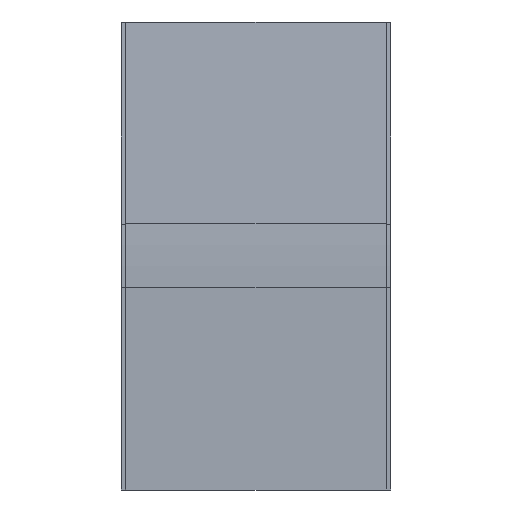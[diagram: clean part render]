
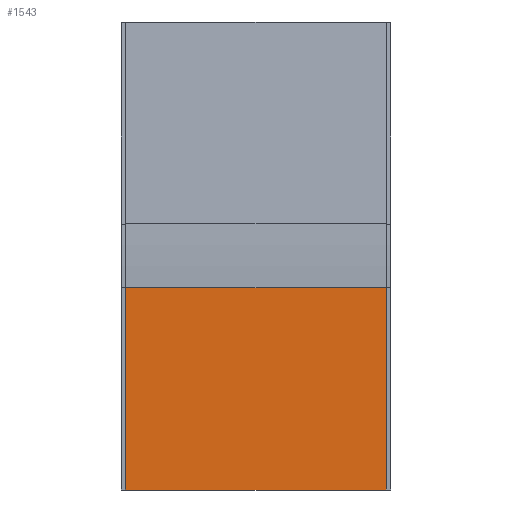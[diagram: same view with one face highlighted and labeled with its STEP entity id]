
A CAD part, front view. The second image highlights one B-rep face of the part: STEP entity #1543.
In plain terms, the highlighted planar face has unit normal (0, -1, 0).
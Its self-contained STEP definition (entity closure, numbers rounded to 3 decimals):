
#58 = EDGE_CURVE ( 'NONE', #579, #2000, #2202, .T. ) ;
#143 = LINE ( 'NONE', #468, #1930 ) ;
#182 = EDGE_LOOP ( 'NONE', ( #1221, #461, #3072, #841 ) ) ;
#251 = VECTOR ( 'NONE', #280, 1000. ) ;
#280 = DIRECTION ( 'NONE',  ( -1., 0., 0. ) ) ;
#344 = DIRECTION ( 'NONE',  ( 0., 0., -1. ) ) ;
#448 = CARTESIAN_POINT ( 'NONE',  ( -96.65, -42., 150. ) ) ;
#461 = ORIENTED_EDGE ( 'NONE', *, *, #1990, .F. ) ;
#468 = CARTESIAN_POINT ( 'NONE',  ( -96.65, -42., 0. ) ) ;
#579 = VERTEX_POINT ( 'NONE', #3073 ) ;
#841 = ORIENTED_EDGE ( 'NONE', *, *, #58, .T. ) ;
#1221 = ORIENTED_EDGE ( 'NONE', *, *, #2026, .F. ) ;
#1228 = CARTESIAN_POINT ( 'NONE',  ( 96.65, -42., 0. ) ) ;
#1230 = AXIS2_PLACEMENT_3D ( 'NONE', #2597, #1636, #3087 ) ;
#1375 = VERTEX_POINT ( 'NONE', #1228 ) ;
#1376 = LINE ( 'NONE', #2752, #2830 ) ;
#1543 = ADVANCED_FACE ( 'NONE', ( #2264 ), #2813, .T. ) ;
#1636 = DIRECTION ( 'NONE',  ( 0., -1., 0. ) ) ;
#1677 = DIRECTION ( 'NONE',  ( -1., 0., 0. ) ) ;
#1692 = VERTEX_POINT ( 'NONE', #2669 ) ;
#1930 = VECTOR ( 'NONE', #1677, 1000. ) ;
#1990 = EDGE_CURVE ( 'NONE', #1692, #1375, #1376, .T. ) ;
#2000 = VERTEX_POINT ( 'NONE', #2250 ) ;
#2026 = EDGE_CURVE ( 'NONE', #1375, #2000, #143, .T. ) ;
#2125 = DIRECTION ( 'NONE',  ( 0., 0., -1. ) ) ;
#2202 = LINE ( 'NONE', #448, #3053 ) ;
#2250 = CARTESIAN_POINT ( 'NONE',  ( -96.65, -42., 0. ) ) ;
#2264 = FACE_OUTER_BOUND ( 'NONE', #182, .T. ) ;
#2597 = CARTESIAN_POINT ( 'NONE',  ( -96.65, -42., 150. ) ) ;
#2669 = CARTESIAN_POINT ( 'NONE',  ( 96.65, -42., 150. ) ) ;
#2713 = EDGE_CURVE ( 'NONE', #1692, #579, #2817, .T. ) ;
#2752 = CARTESIAN_POINT ( 'NONE',  ( 96.65, -42., 150. ) ) ;
#2813 = PLANE ( 'NONE',  #1230 ) ;
#2817 = LINE ( 'NONE', #2936, #251 ) ;
#2830 = VECTOR ( 'NONE', #344, 1000. ) ;
#2936 = CARTESIAN_POINT ( 'NONE',  ( -96.65, -42., 150. ) ) ;
#3053 = VECTOR ( 'NONE', #2125, 1000. ) ;
#3072 = ORIENTED_EDGE ( 'NONE', *, *, #2713, .T. ) ;
#3073 = CARTESIAN_POINT ( 'NONE',  ( -96.65, -42., 150. ) ) ;
#3087 = DIRECTION ( 'NONE',  ( 1., 0., 0. ) ) ;
